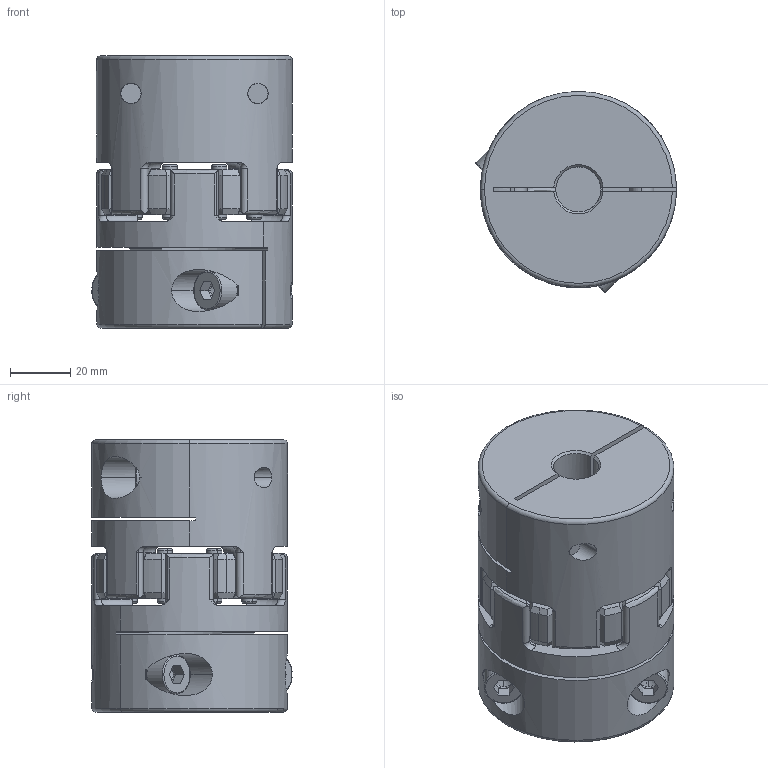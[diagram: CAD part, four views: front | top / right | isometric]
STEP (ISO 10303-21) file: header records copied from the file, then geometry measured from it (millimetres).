
FILE_DESCRIPTION (( 'STEP AP203' ), '1' );
FILE_NAME ('SJC-65C-15X35_203.STEP', '2013-02-20T01:14:08', ( 'MYCOM' ), ( '' ), 'SwSTEP 2.0', 'SolidWorks 2012', '' );
FILE_SCHEMA (( 'CONFIG_CONTROL_DESIGN' ));
Length unit declared in the file: millimetre
Products named in the file (1): SJC-65C-15X35_203
Bounding box: 66.6 x 66.6 x 90.3 mm (x, y, z)
Volume: 221044.9 mm3; surface area: 57872.2 mm2
Topology: 1 solids, 1 shells, 544 faces, 1444 edges, 880 vertices
Faces by surface type: cylinder 214, cone 113, plane 109, torus 108
Entity records: 18517 total; most frequent: CARTESIAN_POINT 4851, DIRECTION 3014, ORIENTED_EDGE 2856, EDGE_CURVE 1428, AXIS2_PLACEMENT_3D 1283, VERTEX_POINT 880, CIRCLE 738, EDGE_LOOP 580
